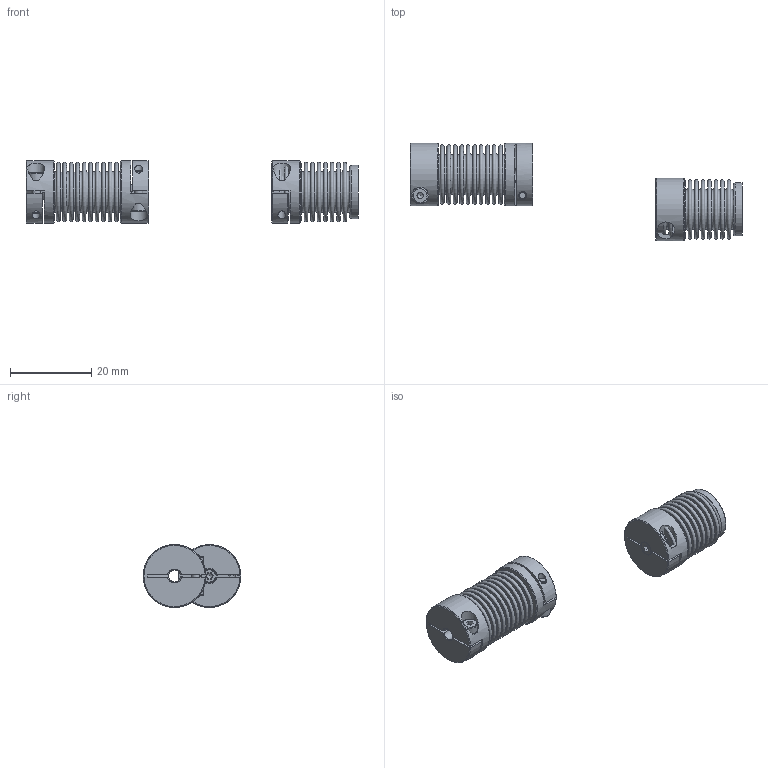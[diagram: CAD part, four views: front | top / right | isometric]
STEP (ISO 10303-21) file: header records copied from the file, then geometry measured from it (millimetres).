
FILE_DESCRIPTION( ( 'Unknown' ), '1' );
FILE_NAME( 'C:/Dokumente und Einstellungen/Sven/Desktop/cad - homepage/KB2/KB2-10-31.stp', 'Unknown', ( 'Unknown' ), ( 'Unknown' ), 'XStep 1.0', 'Unknown', ' ' );
FILE_SCHEMA( ( 'automotive_design' ) );
Length unit declared in the file: millimetre
Products named in the file (4): Assem1; BL10_Standard; KN10_Standard_1; Socket Head Cap Screw_DIN_DIN 912 M2 x 8 --- 8N_1
Bounding box: 81.9 x 24.11 x 15.5 mm (x, y, z)
Volume: 4059.4 mm3; surface area: 13272.2 mm2
Topology: 8 solids, 8 shells, 324 faces, 620 edges, 403 vertices
Faces by surface type: plane 170, torus 98, cylinder 38, cone 18
Full cylindrical faces by diameter (mm): 2 x6, 2.2 x3, 3 x3, 3.8 x3, 12.9 x4, 13.1 x4, 15.5 x3
Entity records: 4077 total; most frequent: CARTESIAN_POINT 607, DIRECTION 602, ORIENTED_EDGE 376, AXIS2_PLACEMENT_3D 278, EDGE_LOOP 254, FACE_OUTER_BOUND 198, EDGE_CURVE 188, VERTEX_POINT 161
